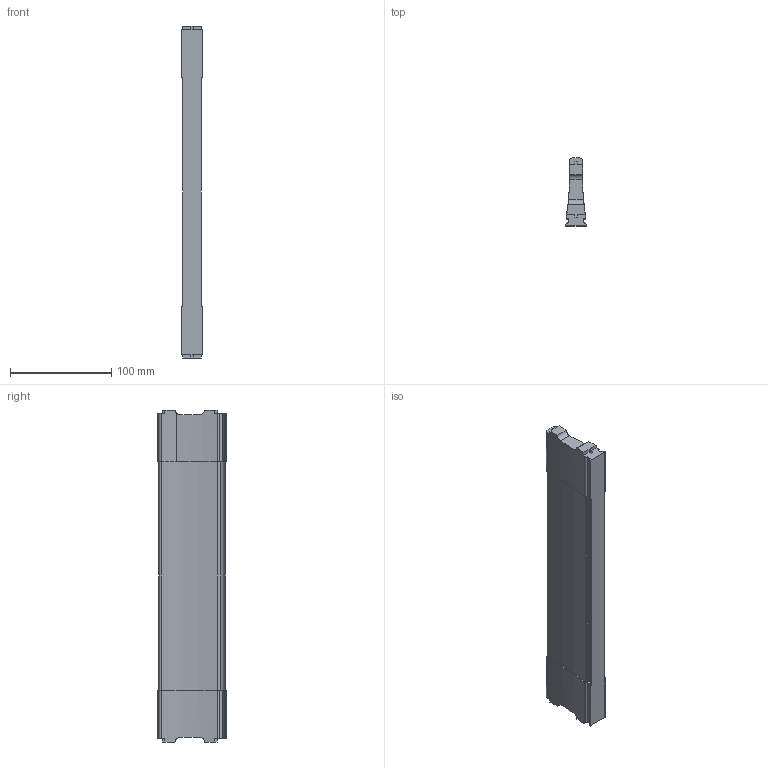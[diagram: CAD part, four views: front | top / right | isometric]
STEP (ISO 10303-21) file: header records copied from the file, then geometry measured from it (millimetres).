
FILE_DESCRIPTION (( 'STEP AP214' ), '1' );
FILE_NAME ('Traverse DWD NL350 Mass X318,4.step', '2010-09-21T13:16:35', ( 'grass' ), ( '' ), 'SwSTEP 2.0', 'SolidWorks 2010', '' );
FILE_SCHEMA (( 'AUTOMOTIVE_DESIGN' ));
Length unit declared in the file: millimetre
Products named in the file (1): Traverse DWD NL350 Mass X318,4
Bounding box: 21.4 x 67.5 x 327.4 mm (x, y, z)
Volume: 276858.2 mm3; surface area: 57747.3 mm2
Topology: 1 solids, 1 shells, 125 faces, 369 edges, 246 vertices
Faces by surface type: cylinder 68, plane 57
Entity records: 4377 total; most frequent: CARTESIAN_POINT 879, DIRECTION 753, ORIENTED_EDGE 738, EDGE_CURVE 369, AXIS2_PLACEMENT_3D 268, VERTEX_POINT 246, LINE 217, VECTOR 217
